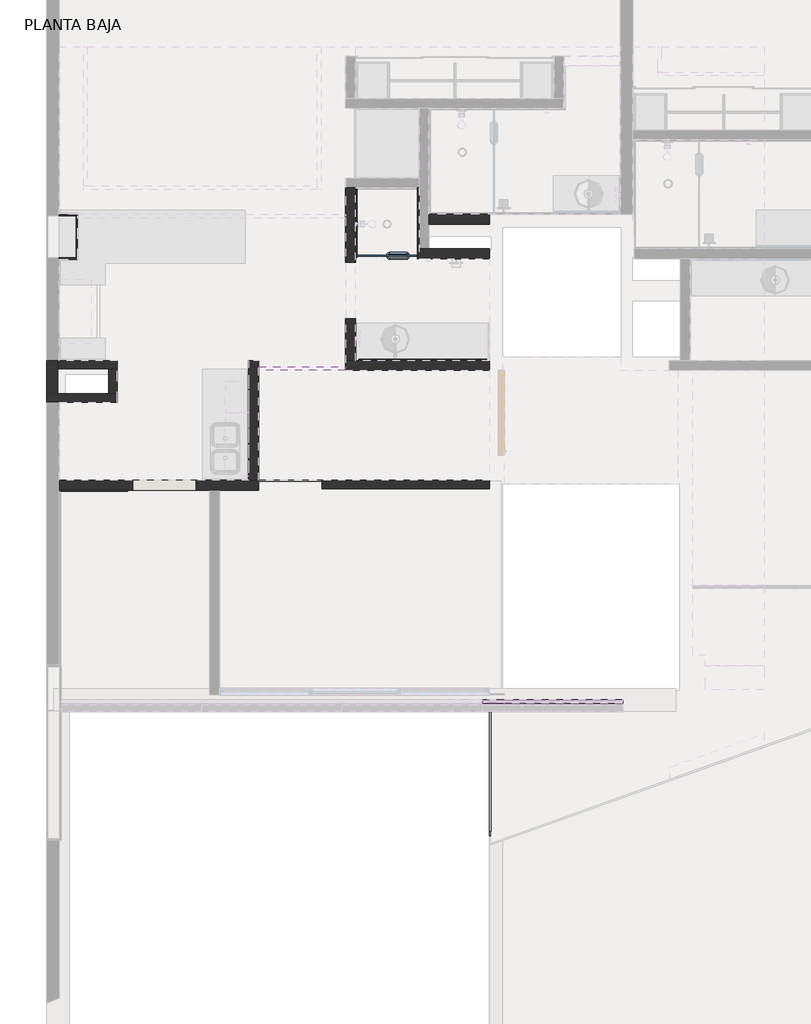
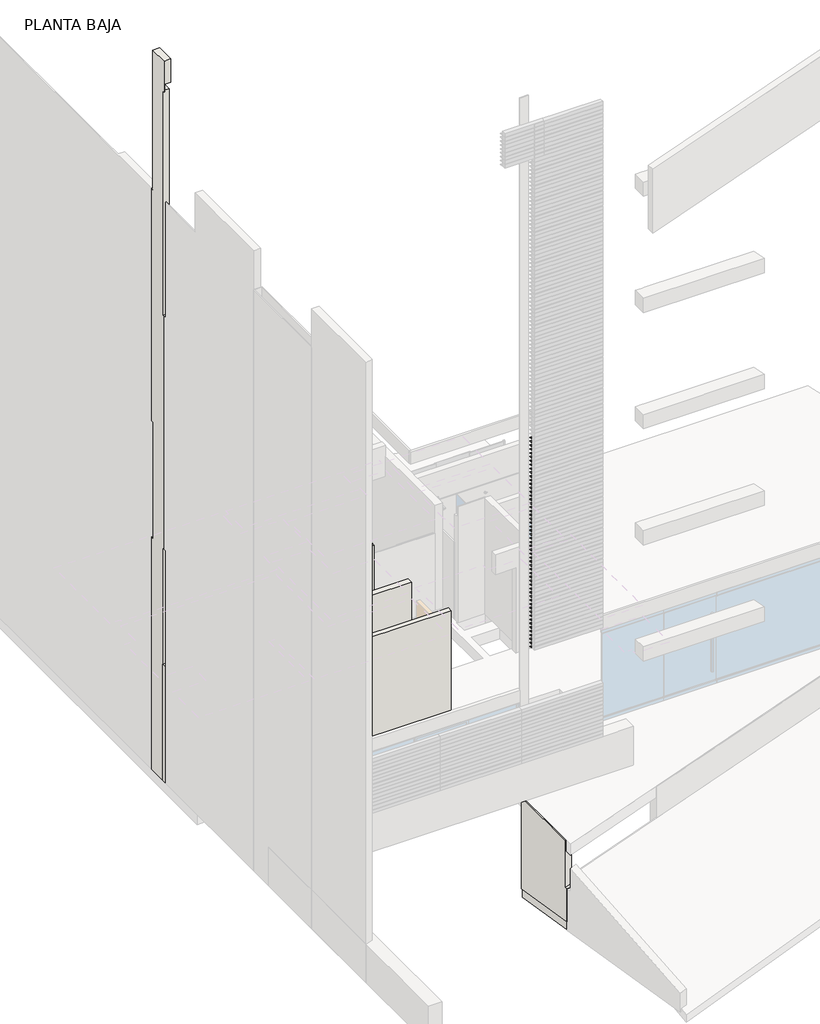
# One storey, part 2 of 8: 69 members, 20 walls, 2 windows.
"""IFC4 building model written with IfcOpenShell, lengths in millimetres."""

from ifc_helpers import new_model, si_unit, frame, origin, origin_with_axes, place, context, project, spatial, polyline, outline, extrude, faceted_brep, transform, mapped, element, save
from components import montante_rectangular_montante_rectangular_1_5x5_73253757, montante_rectangular_montante_rectangular_1_5x5_bb02bb6d, window_c6335699, window_3a4cdc61

model = new_model("IFC4")

# Units and contexts
model_context = context("Model", 3, world=origin())
ifc_project = project(units=[si_unit("LENGTHUNIT", "METRE", prefix="MILLI")], contexts=[model_context])

# Site, building, storey
site = spatial("IfcSite", under=ifc_project)
building = spatial("IfcBuilding", under=site)
storey = spatial("IfcBuildingStorey", under=building, Name="PLANTA BAJA", Elevation=0.0)

# Members
placement = place(None, origin())
montante_rectangular_montante_rectangular_1_5x5_shape = montante_rectangular_montante_rectangular_1_5x5_73253757(model_context)
element("IfcMember", 1, ObjectType="Montante rectangular : Montante rectangular - 1.5x5", at=placement, inside=storey, context=model_context, shape_type="MappedRepresentation", body=[
    mapped(montante_rectangular_montante_rectangular_1_5x5_shape, transform((40444.5059119, 25044.0111729, 3812.0033113), x_axis=(0.0, 0.0, 1.0), y_axis=(0.0, 1.0, 0.0), z_axis=(-1.0, 0.0, 0.0))),
])
element("IfcMember", 2, ObjectType="Montante rectangular : Montante rectangular - 1.5x5", at=placement, inside=storey, context=model_context, shape_type="MappedRepresentation", body=[
    mapped(montante_rectangular_montante_rectangular_1_5x5_shape, transform((40444.5059119, 25044.0111729, 3911.9701987), x_axis=(0.0, 0.0, 1.0), y_axis=(0.0, 1.0, 0.0), z_axis=(-1.0, 0.0, 0.0))),
])
element("IfcMember", 3, ObjectType="Montante rectangular : Montante rectangular - 1.5x5", at=placement, inside=storey, context=model_context, shape_type="MappedRepresentation", body=[
    mapped(montante_rectangular_montante_rectangular_1_5x5_shape, transform((40444.5059119, 25044.0111729, 4011.9370861), x_axis=(0.0, 0.0, 1.0), y_axis=(0.0, 1.0, 0.0), z_axis=(-1.0, 0.0, 0.0))),
])
element("IfcMember", 4, ObjectType="Montante rectangular : Montante rectangular - 1.5x5", at=placement, inside=storey, context=model_context, shape_type="MappedRepresentation", body=[
    mapped(montante_rectangular_montante_rectangular_1_5x5_shape, transform((40444.5059119, 25044.0111729, 4111.9039735), x_axis=(0.0, 0.0, 1.0), y_axis=(0.0, 1.0, 0.0), z_axis=(-1.0, 0.0, 0.0))),
])
element("IfcMember", 5, ObjectType="Montante rectangular : Montante rectangular - 1.5x5", at=placement, inside=storey, context=model_context, shape_type="MappedRepresentation", body=[
    mapped(montante_rectangular_montante_rectangular_1_5x5_shape, transform((40444.5059119, 25044.0111729, 4211.8708609), x_axis=(0.0, 0.0, 1.0), y_axis=(0.0, 1.0, 0.0), z_axis=(-1.0, 0.0, 0.0))),
])
element("IfcMember", 6, ObjectType="Montante rectangular : Montante rectangular - 1.5x5", at=placement, inside=storey, context=model_context, shape_type="MappedRepresentation", body=[
    mapped(montante_rectangular_montante_rectangular_1_5x5_shape, transform((40444.5059119, 25044.0111729, 4311.8377483), x_axis=(0.0, 0.0, 1.0), y_axis=(0.0, 1.0, 0.0), z_axis=(-1.0, 0.0, 0.0))),
])
element("IfcMember", 7, ObjectType="Montante rectangular : Montante rectangular - 1.5x5", at=placement, inside=storey, context=model_context, shape_type="MappedRepresentation", body=[
    mapped(montante_rectangular_montante_rectangular_1_5x5_shape, transform((40444.5059119, 25044.0111729, 4411.8046358), x_axis=(0.0, 0.0, 1.0), y_axis=(0.0, 1.0, 0.0), z_axis=(-1.0, 0.0, 0.0))),
])
element("IfcMember", 8, ObjectType="Montante rectangular : Montante rectangular - 1.5x5", at=placement, inside=storey, context=model_context, shape_type="MappedRepresentation", body=[
    mapped(montante_rectangular_montante_rectangular_1_5x5_shape, transform((40444.5059119, 25044.0111729, 4511.7715232), x_axis=(0.0, 0.0, 1.0), y_axis=(0.0, 1.0, 0.0), z_axis=(-1.0, 0.0, 0.0))),
])
element("IfcMember", 9, ObjectType="Montante rectangular : Montante rectangular - 1.5x5", at=placement, inside=storey, context=model_context, shape_type="MappedRepresentation", body=[
    mapped(montante_rectangular_montante_rectangular_1_5x5_shape, transform((40444.5059119, 25044.0111729, 4611.7384106), x_axis=(0.0, 0.0, 1.0), y_axis=(0.0, 1.0, 0.0), z_axis=(-1.0, 0.0, 0.0))),
])
element("IfcMember", 10, ObjectType="Montante rectangular : Montante rectangular - 1.5x5", at=placement, inside=storey, context=model_context, shape_type="MappedRepresentation", body=[
    mapped(montante_rectangular_montante_rectangular_1_5x5_shape, transform((40444.5059119, 25044.0111729, 4711.705298), x_axis=(0.0, 0.0, 1.0), y_axis=(0.0, 1.0, 0.0), z_axis=(-1.0, 0.0, 0.0))),
])
element("IfcMember", 11, ObjectType="Montante rectangular : Montante rectangular - 1.5x5", at=placement, inside=storey, context=model_context, shape_type="MappedRepresentation", body=[
    mapped(montante_rectangular_montante_rectangular_1_5x5_shape, transform((40444.5059119, 25044.0111729, 4811.6721854), x_axis=(0.0, 0.0, 1.0), y_axis=(0.0, 1.0, 0.0), z_axis=(-1.0, 0.0, 0.0))),
])
element("IfcMember", 12, ObjectType="Montante rectangular : Montante rectangular - 1.5x5", at=placement, inside=storey, context=model_context, shape_type="MappedRepresentation", body=[
    mapped(montante_rectangular_montante_rectangular_1_5x5_shape, transform((40444.5059119, 25044.0111729, 4911.6390728), x_axis=(0.0, 0.0, 1.0), y_axis=(0.0, 1.0, 0.0), z_axis=(-1.0, 0.0, 0.0))),
])
element("IfcMember", 13, ObjectType="Montante rectangular : Montante rectangular - 1.5x5", at=placement, inside=storey, context=model_context, shape_type="MappedRepresentation", body=[
    mapped(montante_rectangular_montante_rectangular_1_5x5_shape, transform((40444.5059119, 25044.0111729, 5011.6059603), x_axis=(0.0, 0.0, 1.0), y_axis=(0.0, 1.0, 0.0), z_axis=(-1.0, 0.0, 0.0))),
])
element("IfcMember", 14, ObjectType="Montante rectangular : Montante rectangular - 1.5x5", at=placement, inside=storey, context=model_context, shape_type="MappedRepresentation", body=[
    mapped(montante_rectangular_montante_rectangular_1_5x5_shape, transform((40444.5059119, 25044.0111729, 5111.5728477), x_axis=(0.0, 0.0, 1.0), y_axis=(0.0, 1.0, 0.0), z_axis=(-1.0, 0.0, 0.0))),
])
element("IfcMember", 15, ObjectType="Montante rectangular : Montante rectangular - 1.5x5", at=placement, inside=storey, context=model_context, shape_type="MappedRepresentation", body=[
    mapped(montante_rectangular_montante_rectangular_1_5x5_shape, transform((40444.5059119, 25044.0111729, 5211.5397351), x_axis=(0.0, 0.0, 1.0), y_axis=(0.0, 1.0, 0.0), z_axis=(-1.0, 0.0, 0.0))),
])
element("IfcMember", 16, ObjectType="Montante rectangular : Montante rectangular - 1.5x5", at=placement, inside=storey, context=model_context, shape_type="MappedRepresentation", body=[
    mapped(montante_rectangular_montante_rectangular_1_5x5_shape, transform((40444.5059119, 25044.0111729, 5311.5066225), x_axis=(0.0, 0.0, 1.0), y_axis=(0.0, 1.0, 0.0), z_axis=(-1.0, 0.0, 0.0))),
])
element("IfcMember", 17, ObjectType="Montante rectangular : Montante rectangular - 1.5x5", at=placement, inside=storey, context=model_context, shape_type="MappedRepresentation", body=[
    mapped(montante_rectangular_montante_rectangular_1_5x5_shape, transform((40444.5059119, 25044.0111729, 5411.4735099), x_axis=(0.0, 0.0, 1.0), y_axis=(0.0, 1.0, 0.0), z_axis=(-1.0, 0.0, 0.0))),
])
element("IfcMember", 18, ObjectType="Montante rectangular : Montante rectangular - 1.5x5", at=placement, inside=storey, context=model_context, shape_type="MappedRepresentation", body=[
    mapped(montante_rectangular_montante_rectangular_1_5x5_shape, transform((40444.5059119, 25044.0111729, 5511.4403974), x_axis=(0.0, 0.0, 1.0), y_axis=(0.0, 1.0, 0.0), z_axis=(-1.0, 0.0, 0.0))),
])
element("IfcMember", 19, ObjectType="Montante rectangular : Montante rectangular - 1.5x5", at=placement, inside=storey, context=model_context, shape_type="MappedRepresentation", body=[
    mapped(montante_rectangular_montante_rectangular_1_5x5_shape, transform((40444.5059119, 25044.0111729, 5611.4072848), x_axis=(0.0, 0.0, 1.0), y_axis=(0.0, 1.0, 0.0), z_axis=(-1.0, 0.0, 0.0))),
])
element("IfcMember", 20, ObjectType="Montante rectangular : Montante rectangular - 1.5x5", at=placement, inside=storey, context=model_context, shape_type="MappedRepresentation", body=[
    mapped(montante_rectangular_montante_rectangular_1_5x5_shape, transform((40444.5059119, 25044.0111729, 5711.3741722), x_axis=(0.0, 0.0, 1.0), y_axis=(0.0, 1.0, 0.0), z_axis=(-1.0, 0.0, 0.0))),
])
element("IfcMember", 21, ObjectType="Montante rectangular : Montante rectangular - 1.5x5", at=placement, inside=storey, context=model_context, shape_type="MappedRepresentation", body=[
    mapped(montante_rectangular_montante_rectangular_1_5x5_shape, transform((40444.5059119, 25044.0111729, 5811.3410596), x_axis=(0.0, 0.0, 1.0), y_axis=(0.0, 1.0, 0.0), z_axis=(-1.0, 0.0, 0.0))),
])
element("IfcMember", 22, ObjectType="Montante rectangular : Montante rectangular - 1.5x5", at=placement, inside=storey, context=model_context, shape_type="MappedRepresentation", body=[
    mapped(montante_rectangular_montante_rectangular_1_5x5_shape, transform((40444.5059119, 25044.0111729, 5911.307947), x_axis=(0.0, 0.0, 1.0), y_axis=(0.0, 1.0, 0.0), z_axis=(-1.0, 0.0, 0.0))),
])
element("IfcMember", 23, ObjectType="Montante rectangular : Montante rectangular - 1.5x5", at=placement, inside=storey, context=model_context, shape_type="MappedRepresentation", body=[
    mapped(montante_rectangular_montante_rectangular_1_5x5_shape, transform((40444.5059119, 25044.0111729, 6011.2748344), x_axis=(0.0, 0.0, 1.0), y_axis=(0.0, 1.0, 0.0), z_axis=(-1.0, 0.0, 0.0))),
])
element("IfcMember", 24, ObjectType="Montante rectangular : Montante rectangular - 1.5x5", at=placement, inside=storey, context=model_context, shape_type="MappedRepresentation", body=[
    mapped(montante_rectangular_montante_rectangular_1_5x5_shape, transform((40444.5059119, 25044.0111729, 6111.2417219), x_axis=(0.0, 0.0, 1.0), y_axis=(0.0, 1.0, 0.0), z_axis=(-1.0, 0.0, 0.0))),
])
element("IfcMember", 25, ObjectType="Montante rectangular : Montante rectangular - 1.5x5", at=placement, inside=storey, context=model_context, shape_type="MappedRepresentation", body=[
    mapped(montante_rectangular_montante_rectangular_1_5x5_shape, transform((40444.5059119, 25044.0111729, 6211.2086093), x_axis=(0.0, 0.0, 1.0), y_axis=(0.0, 1.0, 0.0), z_axis=(-1.0, 0.0, 0.0))),
])
element("IfcMember", 26, ObjectType="Montante rectangular : Montante rectangular - 1.5x5", at=placement, inside=storey, context=model_context, shape_type="MappedRepresentation", body=[
    mapped(montante_rectangular_montante_rectangular_1_5x5_shape, transform((40444.5059119, 25044.0111729, 6311.1754967), x_axis=(0.0, 0.0, 1.0), y_axis=(0.0, 1.0, 0.0), z_axis=(-1.0, 0.0, 0.0))),
])
element("IfcMember", 27, ObjectType="Montante rectangular : Montante rectangular - 1.5x5", at=placement, inside=storey, context=model_context, shape_type="MappedRepresentation", body=[
    mapped(montante_rectangular_montante_rectangular_1_5x5_shape, transform((40444.5059119, 25044.0111729, 6411.1423841), x_axis=(0.0, 0.0, 1.0), y_axis=(0.0, 1.0, 0.0), z_axis=(-1.0, 0.0, 0.0))),
])
element("IfcMember", 28, ObjectType="Montante rectangular : Montante rectangular - 1.5x5", at=placement, inside=storey, context=model_context, shape_type="MappedRepresentation", body=[
    mapped(montante_rectangular_montante_rectangular_1_5x5_shape, transform((40444.5059119, 25044.0111729, 6511.1092715), x_axis=(0.0, 0.0, 1.0), y_axis=(0.0, 1.0, 0.0), z_axis=(-1.0, 0.0, 0.0))),
])
element("IfcMember", 29, ObjectType="Montante rectangular : Montante rectangular - 1.5x5", at=placement, inside=storey, context=model_context, shape_type="MappedRepresentation", body=[
    mapped(montante_rectangular_montante_rectangular_1_5x5_shape, transform((40444.5059119, 25044.0111729, 6611.0761589), x_axis=(0.0, 0.0, 1.0), y_axis=(0.0, 1.0, 0.0), z_axis=(-1.0, 0.0, 0.0))),
])
element("IfcMember", 30, ObjectType="Montante rectangular : Montante rectangular - 1.5x5", at=placement, inside=storey, context=model_context, shape_type="MappedRepresentation", body=[
    mapped(montante_rectangular_montante_rectangular_1_5x5_shape, transform((40444.5059119, 25044.0111729, 6711.0430464), x_axis=(0.0, 0.0, 1.0), y_axis=(0.0, 1.0, 0.0), z_axis=(-1.0, 0.0, 0.0))),
])
element("IfcMember", 31, ObjectType="Montante rectangular : Montante rectangular - 1.5x5", at=placement, inside=storey, context=model_context, shape_type="MappedRepresentation", body=[
    mapped(montante_rectangular_montante_rectangular_1_5x5_shape, transform((40444.5059119, 25044.0111729, 6811.0099338), x_axis=(0.0, 0.0, 1.0), y_axis=(0.0, 1.0, 0.0), z_axis=(-1.0, 0.0, 0.0))),
])
element("IfcMember", 32, ObjectType="Montante rectangular : Montante rectangular - 1.5x5", at=placement, inside=storey, context=model_context, shape_type="MappedRepresentation", body=[
    mapped(montante_rectangular_montante_rectangular_1_5x5_shape, transform((40444.5059119, 25044.0111729, 6910.9768212), x_axis=(0.0, 0.0, 1.0), y_axis=(0.0, 1.0, 0.0), z_axis=(-1.0, 0.0, 0.0))),
])
element("IfcMember", 33, ObjectType="Montante rectangular : Montante rectangular - 1.5x5", at=placement, inside=storey, context=model_context, shape_type="MappedRepresentation", body=[
    mapped(montante_rectangular_montante_rectangular_1_5x5_shape, transform((40444.5059119, 25044.0111729, 7010.9437086), x_axis=(0.0, 0.0, 1.0), y_axis=(0.0, 1.0, 0.0), z_axis=(-1.0, 0.0, 0.0))),
])
element("IfcMember", 34, ObjectType="Montante rectangular : Montante rectangular - 1.5x5", at=placement, inside=storey, context=model_context, shape_type="MappedRepresentation", body=[
    mapped(montante_rectangular_montante_rectangular_1_5x5_shape, transform((40444.5059119, 25044.0111729, 7110.910596), x_axis=(0.0, 0.0, 1.0), y_axis=(0.0, 1.0, 0.0), z_axis=(-1.0, 0.0, 0.0))),
])
element("IfcMember", 35, ObjectType="Montante rectangular : Montante rectangular - 1.5x5", at=placement, inside=storey, context=model_context, shape_type="MappedRepresentation", body=[
    mapped(montante_rectangular_montante_rectangular_1_5x5_shape, transform((40444.5059119, 25044.0111729, 7210.8774834), x_axis=(0.0, 0.0, 1.0), y_axis=(0.0, 1.0, 0.0), z_axis=(-1.0, 0.0, 0.0))),
])
element("IfcMember", 36, ObjectType="Montante rectangular : Montante rectangular - 1.5x5", at=placement, inside=storey, context=model_context, shape_type="MappedRepresentation", body=[
    mapped(montante_rectangular_montante_rectangular_1_5x5_shape, transform((40444.5059119, 25044.0111729, 7310.8443709), x_axis=(0.0, 0.0, 1.0), y_axis=(0.0, 1.0, 0.0), z_axis=(-1.0, 0.0, 0.0))),
])
element("IfcMember", 37, ObjectType="Montante rectangular : Montante rectangular - 1.5x5", at=placement, inside=storey, context=model_context, shape_type="MappedRepresentation", body=[
    mapped(montante_rectangular_montante_rectangular_1_5x5_shape, transform((40444.5059119, 25044.0111729, 7410.8112583), x_axis=(0.0, 0.0, 1.0), y_axis=(0.0, 1.0, 0.0), z_axis=(-1.0, 0.0, 0.0))),
])
element("IfcMember", 38, ObjectType="Montante rectangular : Montante rectangular - 1.5x5", at=placement, inside=storey, context=model_context, shape_type="MappedRepresentation", body=[
    mapped(montante_rectangular_montante_rectangular_1_5x5_shape, transform((40444.5059119, 25044.0111729, 7510.7781457), x_axis=(0.0, 0.0, 1.0), y_axis=(0.0, 1.0, 0.0), z_axis=(-1.0, 0.0, 0.0))),
])
element("IfcMember", 39, ObjectType="Montante rectangular : Montante rectangular - 1.5x5", at=placement, inside=storey, context=model_context, shape_type="MappedRepresentation", body=[
    mapped(montante_rectangular_montante_rectangular_1_5x5_shape, transform((40444.5059119, 25044.0111729, 7610.7450331), x_axis=(0.0, 0.0, 1.0), y_axis=(0.0, 1.0, 0.0), z_axis=(-1.0, 0.0, 0.0))),
])
element("IfcMember", 40, ObjectType="Montante rectangular : Montante rectangular - 1.5x5", at=placement, inside=storey, context=model_context, shape_type="MappedRepresentation", body=[
    mapped(montante_rectangular_montante_rectangular_1_5x5_shape, transform((40444.5059119, 25044.0111729, 7710.7119205), x_axis=(0.0, 0.0, 1.0), y_axis=(0.0, 1.0, 0.0), z_axis=(-1.0, 0.0, 0.0))),
])
element("IfcMember", 41, ObjectType="Montante rectangular : Montante rectangular - 1.5x5", at=placement, inside=storey, context=model_context, shape_type="MappedRepresentation", body=[
    mapped(montante_rectangular_montante_rectangular_1_5x5_shape, transform((40444.5059119, 25044.0111729, 7810.6788079), x_axis=(0.0, 0.0, 1.0), y_axis=(0.0, 1.0, 0.0), z_axis=(-1.0, 0.0, 0.0))),
])
element("IfcMember", 42, ObjectType="Montante rectangular : Montante rectangular - 1.5x5", at=placement, inside=storey, context=model_context, shape_type="MappedRepresentation", body=[
    mapped(montante_rectangular_montante_rectangular_1_5x5_shape, transform((40444.5059119, 25044.0111729, 7910.6456954), x_axis=(0.0, 0.0, 1.0), y_axis=(0.0, 1.0, 0.0), z_axis=(-1.0, 0.0, 0.0))),
])
element("IfcMember", 43, ObjectType="Montante rectangular : Montante rectangular - 1.5x5", at=placement, inside=storey, context=model_context, shape_type="MappedRepresentation", body=[
    mapped(montante_rectangular_montante_rectangular_1_5x5_shape, transform((40444.5059119, 25044.0111729, 8010.6125828), x_axis=(0.0, 0.0, 1.0), y_axis=(0.0, 1.0, 0.0), z_axis=(-1.0, 0.0, 0.0))),
])
element("IfcMember", 44, ObjectType="Montante rectangular : Montante rectangular - 1.5x5", at=placement, inside=storey, context=model_context, shape_type="MappedRepresentation", body=[
    mapped(montante_rectangular_montante_rectangular_1_5x5_shape, transform((40444.5059119, 25044.0111729, 8110.5794702), x_axis=(0.0, 0.0, 1.0), y_axis=(0.0, 1.0, 0.0), z_axis=(-1.0, 0.0, 0.0))),
])
element("IfcMember", 45, ObjectType="Montante rectangular : Montante rectangular - 1.5x5", at=placement, inside=storey, context=model_context, shape_type="MappedRepresentation", body=[
    mapped(montante_rectangular_montante_rectangular_1_5x5_shape, transform((40444.5059119, 25044.0111729, 8210.5463576), x_axis=(0.0, 0.0, 1.0), y_axis=(0.0, 1.0, 0.0), z_axis=(-1.0, 0.0, 0.0))),
])
element("IfcMember", 46, ObjectType="Montante rectangular : Montante rectangular - 1.5x5", at=placement, inside=storey, context=model_context, shape_type="MappedRepresentation", body=[
    mapped(montante_rectangular_montante_rectangular_1_5x5_shape, transform((40444.5059119, 25044.0111729, 8310.513245), x_axis=(0.0, 0.0, 1.0), y_axis=(0.0, 1.0, 0.0), z_axis=(-1.0, 0.0, 0.0))),
])
element("IfcMember", 47, ObjectType="Montante rectangular : Montante rectangular - 1.5x5", at=placement, inside=storey, context=model_context, shape_type="MappedRepresentation", body=[
    mapped(montante_rectangular_montante_rectangular_1_5x5_shape, transform((40444.5059119, 25044.0111729, 8410.4801325), x_axis=(0.0, 0.0, 1.0), y_axis=(0.0, 1.0, 0.0), z_axis=(-1.0, 0.0, 0.0))),
])
element("IfcMember", 48, ObjectType="Montante rectangular : Montante rectangular - 1.5x5", at=placement, inside=storey, context=model_context, shape_type="MappedRepresentation", body=[
    mapped(montante_rectangular_montante_rectangular_1_5x5_shape, transform((40444.5059119, 25044.0111729, 8510.4470199), x_axis=(0.0, 0.0, 1.0), y_axis=(0.0, 1.0, 0.0), z_axis=(-1.0, 0.0, 0.0))),
])
element("IfcMember", 49, ObjectType="Montante rectangular : Montante rectangular - 1.5x5", at=placement, inside=storey, context=model_context, shape_type="MappedRepresentation", body=[
    mapped(montante_rectangular_montante_rectangular_1_5x5_shape, transform((40444.5059119, 25044.0111729, 8610.4139073), x_axis=(0.0, 0.0, 1.0), y_axis=(0.0, 1.0, 0.0), z_axis=(-1.0, 0.0, 0.0))),
])
element("IfcMember", 50, ObjectType="Montante rectangular : Montante rectangular - 1.5x5", at=placement, inside=storey, context=model_context, shape_type="MappedRepresentation", body=[
    mapped(montante_rectangular_montante_rectangular_1_5x5_shape, transform((40444.5059119, 25044.0111729, 8710.3807947), x_axis=(0.0, 0.0, 1.0), y_axis=(0.0, 1.0, 0.0), z_axis=(-1.0, 0.0, 0.0))),
])
element("IfcMember", 51, ObjectType="Montante rectangular : Montante rectangular - 1.5x5", at=placement, inside=storey, context=model_context, shape_type="MappedRepresentation", body=[
    mapped(montante_rectangular_montante_rectangular_1_5x5_shape, transform((40444.5059119, 25044.0111729, 8810.3476821), x_axis=(0.0, 0.0, 1.0), y_axis=(0.0, 1.0, 0.0), z_axis=(-1.0, 0.0, 0.0))),
])
element("IfcMember", 52, ObjectType="Montante rectangular : Montante rectangular - 1.5x5", at=placement, inside=storey, context=model_context, shape_type="MappedRepresentation", body=[
    mapped(montante_rectangular_montante_rectangular_1_5x5_shape, transform((40444.5059119, 25044.0111729, 8910.3145695), x_axis=(0.0, 0.0, 1.0), y_axis=(0.0, 1.0, 0.0), z_axis=(-1.0, 0.0, 0.0))),
])
element("IfcMember", 53, ObjectType="Montante rectangular : Montante rectangular - 1.5x5", at=placement, inside=storey, context=model_context, shape_type="MappedRepresentation", body=[
    mapped(montante_rectangular_montante_rectangular_1_5x5_shape, transform((40444.5059119, 25044.0111729, 9010.281457), x_axis=(0.0, 0.0, 1.0), y_axis=(0.0, 1.0, 0.0), z_axis=(-1.0, 0.0, 0.0))),
])
element("IfcMember", 54, ObjectType="Montante rectangular : Montante rectangular - 1.5x5", at=placement, inside=storey, context=model_context, shape_type="MappedRepresentation", body=[
    mapped(montante_rectangular_montante_rectangular_1_5x5_shape, transform((40444.5059119, 25044.0111729, 9110.2483444), x_axis=(0.0, 0.0, 1.0), y_axis=(0.0, 1.0, 0.0), z_axis=(-1.0, 0.0, 0.0))),
])
element("IfcMember", 55, ObjectType="Montante rectangular : Montante rectangular - 1.5x5", at=placement, inside=storey, context=model_context, shape_type="MappedRepresentation", body=[
    mapped(montante_rectangular_montante_rectangular_1_5x5_shape, transform((40444.5059119, 25044.0111729, 9210.2152318), x_axis=(0.0, 0.0, 1.0), y_axis=(0.0, 1.0, 0.0), z_axis=(-1.0, 0.0, 0.0))),
])
montante_rectangular_montante_rectangular_1_5x5_2_shape = montante_rectangular_montante_rectangular_1_5x5_bb02bb6d(model_context)
element("IfcMember", 56, ObjectType="Montante rectangular : Montante rectangular - 1.5x5", at=placement, inside=storey, context=model_context, shape_type="MappedRepresentation", body=[
    mapped(montante_rectangular_montante_rectangular_1_5x5_2_shape, transform((40132.4485818, 25044.0111729, 1086.8333333), x_axis=(0.0, 0.0, 1.0), y_axis=(0.0, 1.0, 0.0), z_axis=(-1.0, 0.0, 0.0))),
])
element("IfcMember", 57, ObjectType="Montante rectangular : Montante rectangular - 1.5x5", at=placement, inside=storey, context=model_context, shape_type="MappedRepresentation", body=[
    mapped(montante_rectangular_montante_rectangular_1_5x5_2_shape, transform((40132.4485818, 25044.0111729, 1181.1666667), x_axis=(0.0, 0.0, 1.0), y_axis=(0.0, 1.0, 0.0), z_axis=(-1.0, 0.0, 0.0))),
])
element("IfcMember", 58, ObjectType="Montante rectangular : Montante rectangular - 1.5x5", at=placement, inside=storey, context=model_context, shape_type="MappedRepresentation", body=[
    mapped(montante_rectangular_montante_rectangular_1_5x5_2_shape, transform((40132.4485818, 25044.0111729, 1275.5), x_axis=(0.0, 0.0, 1.0), y_axis=(0.0, 1.0, 0.0), z_axis=(-1.0, 0.0, 0.0))),
])
element("IfcMember", 59, ObjectType="Montante rectangular : Montante rectangular - 1.5x5", at=placement, inside=storey, context=model_context, shape_type="MappedRepresentation", body=[
    mapped(montante_rectangular_montante_rectangular_1_5x5_2_shape, transform((40132.4485818, 25044.0111729, 1369.8333333), x_axis=(0.0, 0.0, 1.0), y_axis=(0.0, 1.0, 0.0), z_axis=(-1.0, 0.0, 0.0))),
])
element("IfcMember", 60, ObjectType="Montante rectangular : Montante rectangular - 1.5x5", at=placement, inside=storey, context=model_context, shape_type="MappedRepresentation", body=[
    mapped(montante_rectangular_montante_rectangular_1_5x5_2_shape, transform((40132.4485818, 25044.0111729, 1464.1666667), x_axis=(0.0, 0.0, 1.0), y_axis=(0.0, 1.0, 0.0), z_axis=(-1.0, 0.0, 0.0))),
])
element("IfcMember", 61, ObjectType="Montante rectangular : Montante rectangular - 1.5x5", at=placement, inside=storey, context=model_context, shape_type="MappedRepresentation", body=[
    mapped(montante_rectangular_montante_rectangular_1_5x5_2_shape, transform((40132.4485818, 25044.0111729, 1558.5), x_axis=(0.0, 0.0, 1.0), y_axis=(0.0, 1.0, 0.0), z_axis=(-1.0, 0.0, 0.0))),
])
element("IfcMember", 62, ObjectType="Montante rectangular : Montante rectangular - 1.5x5", at=placement, inside=storey, context=model_context, shape_type="MappedRepresentation", body=[
    mapped(montante_rectangular_montante_rectangular_1_5x5_2_shape, transform((40132.4485818, 25044.0111729, 1652.8333333), x_axis=(0.0, 0.0, 1.0), y_axis=(0.0, 1.0, 0.0), z_axis=(-1.0, 0.0, 0.0))),
])
element("IfcMember", 63, ObjectType="Montante rectangular : Montante rectangular - 1.5x5", at=placement, inside=storey, context=model_context, shape_type="MappedRepresentation", body=[
    mapped(montante_rectangular_montante_rectangular_1_5x5_2_shape, transform((40132.4485818, 25044.0111729, 1747.1666667), x_axis=(0.0, 0.0, 1.0), y_axis=(0.0, 1.0, 0.0), z_axis=(-1.0, 0.0, 0.0))),
])
element("IfcMember", 64, ObjectType="Montante rectangular : Montante rectangular - 1.5x5", at=placement, inside=storey, context=model_context, shape_type="MappedRepresentation", body=[
    mapped(montante_rectangular_montante_rectangular_1_5x5_2_shape, transform((40132.4485818, 25044.0111729, 1841.5), x_axis=(0.0, 0.0, 1.0), y_axis=(0.0, 1.0, 0.0), z_axis=(-1.0, 0.0, 0.0))),
])
element("IfcMember", 65, ObjectType="Montante rectangular : Montante rectangular - 1.5x5", at=placement, inside=storey, context=model_context, shape_type="MappedRepresentation", body=[
    mapped(montante_rectangular_montante_rectangular_1_5x5_2_shape, transform((40132.4485818, 25044.0111729, 1935.8333333), x_axis=(0.0, 0.0, 1.0), y_axis=(0.0, 1.0, 0.0), z_axis=(-1.0, 0.0, 0.0))),
])
element("IfcMember", 66, ObjectType="Montante rectangular : Montante rectangular - 1.5x5", at=placement, inside=storey, context=model_context, shape_type="MappedRepresentation", body=[
    mapped(montante_rectangular_montante_rectangular_1_5x5_2_shape, transform((40132.4485818, 25044.0111729, 2030.1666667), x_axis=(0.0, 0.0, 1.0), y_axis=(0.0, 1.0, 0.0), z_axis=(-1.0, 0.0, 0.0))),
])
element("IfcMember", 67, ObjectType="Montante rectangular : Montante rectangular - 1.5x5", at=placement, inside=storey, context=model_context, shape_type="MappedRepresentation", body=[
    mapped(montante_rectangular_montante_rectangular_1_5x5_2_shape, transform((40132.4485818, 25044.0111729, 2124.5), x_axis=(0.0, 0.0, 1.0), y_axis=(0.0, 1.0, 0.0), z_axis=(-1.0, 0.0, 0.0))),
])
element("IfcMember", 68, ObjectType="Montante rectangular : Montante rectangular - 1.5x5", at=placement, inside=storey, context=model_context, shape_type="MappedRepresentation", body=[
    mapped(montante_rectangular_montante_rectangular_1_5x5_2_shape, transform((40132.4485818, 25044.0111729, 2218.8333333), x_axis=(0.0, 0.0, 1.0), y_axis=(0.0, 1.0, 0.0), z_axis=(-1.0, 0.0, 0.0))),
])
element("IfcMember", 69, ObjectType="Montante rectangular : Montante rectangular - 1.5x5", at=placement, inside=storey, context=model_context, shape_type="MappedRepresentation", body=[
    mapped(montante_rectangular_montante_rectangular_1_5x5_2_shape, transform((40132.4485818, 25044.0111729, 2313.1666667), x_axis=(0.0, 0.0, 1.0), y_axis=(0.0, 1.0, 0.0), z_axis=(-1.0, 0.0, 0.0))),
])

# Walls
element("IfcWall", 70, ObjectType="Muro block 12cms_int_ductos", at=placement, inside=storey, context=model_context, shape_type="Brep", body=[
    faceted_brep([(33963.8589874, 29274.010184, 0.0), (34143.8589874, 29274.010184, 0.0), (34963.8589874, 29274.010184, 0.0), (34963.8589874, 29274.010184, 3000.0), (33963.8589874, 29274.010184, 3000.0), (33963.8589874, 29394.010184, 0.0), (33963.8589874, 29394.010184, 3000.0), (34843.8589874, 29394.010184, 3000.0), (34963.8589874, 29394.010184, 3000.0), (34963.8589874, 29394.010184, 0.0), (34843.8589874, 29394.010184, 0.0), (34123.8589874, 29394.010184, 0.0)], [[[0, 1, 2, 3, 4]], [[5, 6, 7, 8, 9, 10, 11]], [[2, 1, 0, 5, 11, 10, 9]], [[4, 3, 8, 7, 6]], [[0, 4, 6, 5]], [[3, 2, 9, 8]]]),
])
element("IfcWall", 71, ObjectType="Muro block 16cms_ext ductos", at=placement, inside=storey, context=model_context, shape_type="Brep", body=[
    faceted_brep([(33963.8589874, 29864.010184, 0.0), (33963.8589874, 29394.010184, 0.0), (33963.8589874, 29394.010184, 3000.0), (33963.8589874, 29394.010184, 6000.0), (33963.8589874, 29334.010184, 6000.0), (33963.8589874, 29334.010184, 12000.0), (33963.8589874, 29394.010184, 12000.0), (33963.8589874, 29394.010184, 15000.0), (33963.8589874, 29394.010184, 17800.0), (33963.8589874, 29334.010184, 17800.0), (33963.8589874, 29334.010184, 18600.0), (33963.8589874, 29804.010184, 18600.0), (33963.8589874, 29804.010184, 15000.0), (33963.8589874, 29864.010184, 15000.0), (33963.8589874, 29864.010184, 9000.0), (33963.8589874, 29804.010184, 9000.0), (33963.8589874, 29804.010184, 6000.0), (33963.8589874, 29864.010184, 6000.0), (34123.8589874, 29804.010184, 18600.0), (34123.8589874, 29334.010184, 18600.0), (34123.8589874, 29334.010184, 18000.0), (34123.8589874, 29804.010184, 18000.0), (34123.8589874, 29394.010184, 0.0), (34123.8589874, 29744.010184, 0.0), (34123.8589874, 29864.010184, 0.0), (34123.8589874, 29864.010184, 3000.0), (34123.8589874, 29864.010184, 6000.0), (34123.8589874, 29804.010184, 6000.0), (34123.8589874, 29804.010184, 9000.0), (34123.8589874, 29864.010184, 9000.0), (34123.8589874, 29864.010184, 12000.0), (34123.8589874, 29864.010184, 15000.0), (34123.8589874, 29804.010184, 15000.0), (34123.8589874, 29804.010184, 17800.0), (34123.8589874, 29744.010184, 17800.0), (34123.8589874, 29394.010184, 17800.0), (34123.8589874, 29394.010184, 12000.0), (34123.8589874, 29334.010184, 12000.0), (34123.8589874, 29334.010184, 9000.0), (34123.8589874, 29334.010184, 6000.0), (34123.8589874, 29394.010184, 6000.0), (33983.8589874, 29804.010184, 17800.0), (33983.8589874, 29394.010184, 17800.0), (33983.8589874, 29334.010184, 18000.0), (33983.8589874, 29804.010184, 18000.0), (33983.8589874, 29334.010184, 17800.0), (33983.8589874, 29864.010184, 6000.0), (33983.8589874, 29804.010184, 9000.0), (33983.8589874, 29864.010184, 9000.0)], [[[0, 1, 2, 3, 4, 5, 6, 7, 8, 9, 10, 11, 12, 13, 14, 15, 16, 17]], [[18, 19, 20, 21]], [[22, 23, 24, 25, 26, 27, 28, 29, 30, 31, 32, 33, 34, 35, 36, 37, 38, 39, 40]], [[1, 0, 24, 23, 22]], [[11, 10, 19, 18]], [[41, 42, 35, 34, 33]], [[43, 44, 21, 20]], [[42, 41, 44, 43, 45]], [[39, 4, 3, 40]], [[4, 39, 38, 37, 5]], [[6, 5, 37, 36]], [[1, 22, 40, 3, 2]], [[19, 10, 9, 45, 43, 20]], [[9, 8, 42, 45]], [[6, 36, 35, 42, 8, 7]], [[16, 27, 26, 46, 17]], [[27, 16, 15, 47, 28]], [[29, 28, 47, 15, 14, 48]], [[12, 32, 31, 13]], [[11, 18, 21, 44, 41, 33, 32, 12]], [[24, 0, 17, 46, 26, 25]], [[13, 31, 30, 29, 48, 14]]]),
])
element("IfcWall", 72, ObjectType="Muro block 12cms_int_ductos", at=placement, inside=storey, context=model_context, shape_type="Brep", body=[
    faceted_brep([(34123.8589874, 29744.010184, 0.0), (34843.8589874, 29744.010184, 0.0), (34963.8589874, 29744.010184, 0.0), (34963.8589874, 29744.010184, 3000.0), (34843.8589874, 29744.010184, 3000.0), (34123.8589874, 29744.010184, 3000.0), (34123.8589874, 29864.010184, 0.0), (34123.8589874, 29864.010184, 3000.0), (34963.8589874, 29864.010184, 3000.0), (34963.8589874, 29864.010184, 0.0), (34143.8589874, 29864.010184, 0.0)], [[[0, 1, 2, 3, 4, 5]], [[6, 7, 8, 9, 10]], [[2, 1, 0, 6, 10, 9]], [[5, 4, 3, 8, 7]], [[0, 5, 7, 6]], [[3, 2, 9, 8]]]),
])
element("IfcWall", 73, ObjectType="TABLAROCA - 2 CAPAS 1/2\"", at=placement, inside=storey, context=model_context, shape_type="Brep", body=[
    faceted_brep([(40234.5059119, 28169.7432167, 0.0), (36965.8300226, 28169.7432167, 0.0), (36965.8300226, 28169.7432167, 180.0), (37865.8300226, 28169.7432167, 180.0), (37865.8300226, 28169.7432167, 2380.0), (36965.8300226, 28169.7432167, 2380.0), (36965.8300226, 28169.7432167, 2720.0), (36895.8300226, 28169.7432167, 2720.0), (36895.8300226, 28169.7432167, 3000.0), (40234.5059119, 28169.7432167, 3000.0), (40234.5059119, 28052.3432167, 3000.0), (36895.8300226, 28052.3432167, 3000.0), (36895.8300226, 28052.3432167, 2720.0), (36965.8300226, 28052.3432167, 2720.0), (36965.8300226, 28052.3432167, 2380.0), (37865.8300226, 28052.3432167, 2380.0), (37865.8300226, 28052.3432167, 180.0), (40234.5059119, 28052.3432167, 180.0), (40234.5059119, 28157.0432167, 0.0), (36965.8300226, 28157.0432167, 0.0), (40234.5059119, 28157.0432167, 180.0), (37865.8300226, 28157.0432167, 180.0), (36965.8300226, 28157.0432167, 180.0)], [[[0, 1, 2, 3, 4, 5, 6, 7, 8, 9]], [[10, 11, 12, 13, 14, 15, 16, 17]], [[1, 0, 18, 19]], [[9, 8, 11, 10]], [[0, 9, 10, 17, 20, 18]], [[4, 15, 14, 5]], [[15, 4, 3, 21, 16]], [[3, 2, 22, 21]], [[11, 8, 7, 12]], [[12, 7, 6, 13]], [[2, 1, 19, 22]], [[13, 6, 5, 14]], [[21, 20, 17, 16]], [[20, 21, 22, 19, 18]]]),
])
element("IfcWall", 74, ObjectType="Muro block 12cms_int_ductos", at=placement, inside=storey, context=model_context, shape_type="SweptSolid", body=[
    extrude(outline(polyline([(34963.8589874, 29744.010184), (34963.8589874, 29394.010184), (34843.8589874, 29394.010184), (34843.8589874, 29744.010184), (34963.8589874, 29744.010184)])), origin_with_axes(), (0.0, 0.0, 1.0), 3000.0),
])
element("IfcWall", 75, ObjectType="Cerámica baño", at=placement, inside=storey, context=model_context, shape_type="Brep", body=[
    faceted_brep([(35114.5300226, 28032.0432167, 0.0), (34143.8589874, 28032.0432167, 0.0), (34143.8589874, 28032.0432167, 2000.0), (35114.5300226, 28032.0432167, 2000.0), (35114.5300226, 28012.0432167, 0.0), (35114.5300226, 28012.0432167, 2000.0), (34163.8589874, 28012.0432167, 2000.0), (34143.8589874, 28012.0432167, 2000.0), (34143.8589874, 28012.0432167, 0.0), (34163.8589874, 28012.0432167, 0.0)], [[[0, 1, 2, 3]], [[4, 5, 6, 7, 8, 9]], [[1, 0, 4, 9, 8]], [[3, 2, 7, 6, 5]], [[0, 3, 5, 4]], [[2, 1, 8, 7]]]),
])
element("IfcWall", 76, ObjectType="Plafond tablaroca", at=placement, inside=storey, context=model_context, shape_type="SweptSolid", body=[
    extrude(outline(polyline([(34403.8589874, 31928.9733508), (38194.5300226, 31928.9733508), (38194.5300226, 31876.2733508), (34403.8589874, 31876.2733508), (34403.8589874, 31928.9733508)])), frame((0.0, 0.0, 2352.7), z_axis=(0.0, 0.0, 1.0), x_axis=(1.0, 0.0, 0.0)), (0.0, 0.0, 1.0), 97.3),
])
element("IfcWall", 77, ObjectType="Plafond tablaroca", at=placement, inside=storey, context=model_context, shape_type="SweptSolid", body=[
    extrude(outline(polyline([(36965.8300226, 29776.710184), (38194.5300226, 29776.710184), (38194.5300226, 29724.010184), (36965.8300226, 29724.010184), (36965.8300226, 29776.710184)])), frame((0.0, 0.0, 2352.7), z_axis=(0.0, 0.0, 1.0), x_axis=(1.0, 0.0, 0.0)), (0.0, 0.0, 1.0), 367.3),
])
element("IfcWall", 78, ObjectType="Cerámica baño", at=placement, inside=storey, context=model_context, shape_type="Brep", body=[
    faceted_brep([(39234.5300226, 31304.010477, 0.0), (39234.5300226, 32304.010477, 0.0), (39234.5300226, 32304.010477, 2000.0), (39234.5300226, 31304.010477, 2000.0), (39214.5300226, 31304.010477, 0.0), (39214.5300226, 31304.010477, 2000.0), (39214.5300226, 31324.010477, 2000.0), (39214.5300226, 31364.010477, 2000.0), (39214.5300226, 32284.010477, 2000.0), (39214.5300226, 32304.010477, 2000.0), (39214.5300226, 32304.010477, 0.0), (39214.5300226, 32284.010477, 0.0), (39214.5300226, 31364.010477, 0.0), (39214.5300226, 31324.010477, 0.0)], [[[0, 1, 2, 3]], [[4, 5, 6, 7, 8, 9, 10, 11, 12, 13]], [[1, 0, 4, 13, 12, 11, 10]], [[3, 2, 9, 8, 7, 6, 5]], [[0, 3, 5, 4]], [[2, 1, 10, 9]]]),
])
element("IfcWall", 79, ObjectType="Cerámica baño", at=placement, inside=storey, context=model_context, shape_type="Brep", body=[
    faceted_brep([(38334.5300226, 32284.010477, 0.0), (38334.5300226, 31324.010477, 0.0), (38334.5300226, 31324.010477, 2000.0), (38334.5300226, 32284.010477, 2000.0), (38354.5300226, 32284.010477, 0.0), (38354.5300226, 32284.010477, 2000.0), (38354.5300226, 31364.010477, 2000.0), (38354.5300226, 31324.010477, 2000.0), (38354.5300226, 31324.010477, 0.0), (38354.5300226, 31364.010477, 0.0)], [[[0, 1, 2, 3]], [[4, 5, 6, 7, 8, 9]], [[1, 0, 4, 9, 8]], [[3, 2, 7, 6, 5]], [[0, 3, 5, 4]], [[2, 1, 8, 7]]]),
])
element("IfcWall", 80, ObjectType="Muro block 14cms_int", at=placement, inside=storey, context=model_context, shape_type="Brep", body=[
    faceted_brep([(36965.8300226, 28172.0432167, 0.0), (36965.8300226, 29864.010184, 0.0), (36965.8300226, 29864.010184, 2720.0), (36965.8300226, 29776.710184, 2720.0), (36965.8300226, 29724.010184, 2720.0), (36965.8300226, 28172.0432167, 2720.0), (36825.8300226, 28172.0432167, 0.0), (36825.8300226, 28172.0432167, 2720.0), (36825.8300226, 29864.010184, 2720.0), (36825.8300226, 29864.010184, 0.0), (36895.8300226, 28172.0432167, 2720.0)], [[[0, 1, 2, 3, 4, 5]], [[6, 7, 8, 9]], [[1, 0, 6, 9]], [[2, 1, 9, 8]], [[5, 4, 3, 2, 8, 7, 10]], [[0, 5, 10, 7, 6]]]),
])
element("IfcWall", 81, ObjectType="Muro block 14cms_int", at=placement, inside=storey, context=model_context, shape_type="Brep", body=[
    faceted_brep([(40234.5059119, 29864.010184, 0.0), (38334.5300226, 29864.010184, 0.0), (38194.5300226, 29864.010184, 0.0), (38194.5300226, 29864.010184, 2720.0), (38334.5300226, 29864.010184, 2720.0), (40234.5059119, 29864.010184, 2720.0), (38194.5300226, 29724.010184, 0.0), (40234.5059119, 29724.010184, 0.0), (40234.5059119, 29724.010184, 2720.0), (38194.5300226, 29724.010184, 2720.0), (38194.5300226, 29776.710184, 2720.0)], [[[0, 1, 2, 3, 4, 5]], [[6, 7, 8, 9]], [[2, 1, 0, 7, 6]], [[5, 4, 3, 10, 9, 8]], [[7, 0, 5, 8]], [[2, 6, 9, 10, 3]]]),
])
element("IfcWall", 82, ObjectType="Muro block 14cms_int", at=placement, inside=storey, context=model_context, shape_type="Brep", body=[
    faceted_brep([(40234.5059119, 31444.010477, 0.0), (39374.5300226, 31444.010477, 0.0), (39234.5300226, 31444.010477, 0.0), (39234.5300226, 31444.010477, 2720.0), (39354.5300226, 31444.010477, 2720.0), (39354.5300226, 31444.010477, 3000.0), (39374.5300226, 31444.010477, 3000.0), (40234.5059119, 31444.010477, 3000.0), (39234.5300226, 31304.010477, 0.0), (40234.5059119, 31304.010477, 0.0), (40234.5059119, 31304.010477, 2720.0), (39234.5300226, 31304.010477, 2720.0), (39354.5300226, 31424.0104769, 3000.0), (40234.5059119, 31424.0104769, 3000.0), (40234.5059119, 31424.0104769, 2720.0), (39354.5300226, 31424.0104769, 2720.0)], [[[0, 1, 2, 3, 4, 5, 6, 7]], [[8, 9, 10, 11]], [[2, 1, 0, 9, 8]], [[7, 6, 5, 12, 13]], [[14, 15, 4, 3, 11, 10]], [[15, 12, 5, 4]], [[12, 15, 14, 13]], [[0, 7, 13, 14, 10, 9]], [[2, 8, 11, 3]]]),
])
element("IfcWall", 83, ObjectType="Muro block 14cms_int", at=placement, inside=storey, context=model_context, shape_type="SweptSolid", body=[
    extrude(outline(polyline([(32304.010477, 0.0), (31254.010477, 0.0), (31254.010477, 2200.0), (30454.010477, 2200.0), (30454.010477, 0.0), (29864.010184, 0.0), (29864.010184, 2720.0), (32304.010477, 2720.0), (32304.010477, 0.0)])), frame((38194.5300226, 0.0, 0.0), z_axis=(1.0, 0.0, 0.0), x_axis=(0.0, 1.0, 0.0)), (0.0, 0.0, 1.0), 140.0),
])
element("IfcWall", 84, ObjectType="Muro block 14cms_int", at=placement, inside=storey, context=model_context, shape_type="SweptSolid", body=[
    extrude(outline(polyline([(39374.5300226, 31933.9733508), (40234.5059119, 31933.9733508), (40234.5059119, 31793.9733508), (39374.5300226, 31793.9733508), (39374.5300226, 31933.9733508)])), origin_with_axes(), (0.0, 0.0, 1.0), 3000.0),
])
element("IfcWall", 85, ObjectType="Muro block 14cms_int", at=placement, inside=storey, context=model_context, shape_type="SweptSolid", body=[
    extrude(outline(polyline([(31788.9733508, 0.0), (31438.9733508, 0.0), (31438.9733508, 5720.0), (31768.9733508, 5720.0), (31768.9733508, 3000.0), (31788.9733508, 3000.0), (31788.9733508, 0.0)])), frame((34383.8589874, 0.0, 0.0), z_axis=(1.0, 0.0, 0.0), x_axis=(0.0, 1.0, 0.0)), (0.0, 0.0, 1.0), 15.0),
])
element("IfcWall", 86, ObjectType="Muro block 14cms_int", at=placement, inside=storey, context=model_context, shape_type="Brep", body=[
    faceted_brep([(34398.8589874, 31438.9733508, 5720.0), (34398.8589874, 31438.9733508, 0.0), (34383.8589874, 31438.9733508, 0.0), (34383.8589874, 31438.9733508, 5720.0), (34143.8589874, 31298.9733508, 0.0), (34398.8589874, 31298.9733508, 0.0), (34398.8589874, 31298.9733508, 5720.0), (34143.8589874, 31298.9733508, 5720.0), (34143.8589874, 31313.9733508, 0.0), (34383.8589874, 31313.9733508, 0.0), (34383.8589874, 31313.9733508, 5720.0), (34143.8589874, 31313.9733508, 2720.0), (34143.8589874, 31313.9733508, 3000.0), (34143.8589874, 31313.9733508, 5720.0)], [[[0, 1, 2, 3]], [[4, 5, 6, 7]], [[5, 4, 8, 9, 2, 1]], [[1, 0, 6, 5]], [[9, 10, 3, 2]], [[10, 9, 8, 11, 12, 13]], [[4, 7, 13, 12, 11, 8]], [[7, 6, 0, 3, 10, 13]]]),
])
element("IfcWall", 87, ObjectType="Muro block 14cms_int", at=placement, inside=storey, context=model_context, shape_type="Brep", body=[
    faceted_brep([(34398.8589874, 31788.9733508, 0.0), (34398.8589874, 31788.9733508, 3000.0), (34383.8589874, 31788.9733508, 3000.0), (34383.8589874, 31788.9733508, 0.0), (34398.8589874, 31928.9733508, 0.0), (34143.8589874, 31928.9733508, 0.0), (34143.8589874, 31928.9733508, 5720.0), (34398.8589874, 31928.9733508, 5720.0), (34383.8589874, 31913.9733508, 0.0), (34143.8589874, 31913.9733508, 0.0), (34143.8589874, 31913.9733508, 2720.0), (34143.8589874, 31913.9733508, 3000.0), (34143.8589874, 31913.9733508, 5720.0), (34398.8589874, 31908.9733508, 5720.0), (34398.8589874, 31908.9733508, 3000.0), (34383.8589874, 31908.9733508, 5720.0), (34383.8589874, 31908.9733508, 3000.0), (34383.8589874, 31913.9733508, 5720.0)], [[[0, 1, 2, 3]], [[4, 5, 6, 7]], [[5, 4, 0, 3, 8, 9]], [[6, 5, 9, 10, 11, 12]], [[0, 4, 7, 13, 14, 1]], [[14, 13, 15, 16]], [[1, 14, 16, 2]], [[17, 8, 3, 2, 16, 15]], [[8, 17, 12, 11, 10, 9]], [[7, 6, 12, 17, 15, 13]]]),
])
element("IfcWall", 88, ObjectType="Muro block 14cms_int", at=placement, inside=storey, context=model_context, shape_type="Brep", body=[
    faceted_brep([(36965.8300226, 28172.0432167, 0.0), (36825.8300226, 28172.0432167, 0.0), (34143.8589874, 28172.0432167, 0.0), (34143.8589874, 28172.0432167, 3000.0), (36895.8300226, 28172.0432167, 3000.0), (36895.8300226, 28172.0432167, 2720.0), (36965.8300226, 28172.0432167, 2720.0), (36084.5300226, 28172.0432167, 180.0), (36084.5300226, 28172.0432167, 2380.0), (35184.5300226, 28172.0432167, 2380.0), (35184.5300226, 28172.0432167, 180.0), (34143.8589874, 28032.0432167, 0.0), (36965.8300226, 28032.0432167, 0.0), (36965.8300226, 28032.0432167, 2720.0), (36895.8300226, 28032.0432167, 2720.0), (36895.8300226, 28032.0432167, 3000.0), (34143.8589874, 28032.0432167, 3000.0), (36084.5300226, 28032.0432167, 2380.0), (36084.5300226, 28032.0432167, 180.0), (35184.5300226, 28032.0432167, 180.0), (35184.5300226, 28032.0432167, 2380.0), (36965.8300226, 28169.7432167, 0.0), (36965.8300226, 28157.0432167, 0.0), (34143.8589874, 28157.0432167, 0.0), (36895.8300226, 28052.3432167, 3000.0), (36895.8300226, 28169.7432167, 3000.0), (36895.8300226, 28052.3432167, 2720.0), (36895.8300226, 28169.7432167, 2720.0), (36965.8300226, 28052.3432167, 2720.0), (36965.8300226, 28169.7432167, 2720.0)], [[[0, 1, 2, 3, 4, 5, 6], [7, 8, 9, 10]], [[11, 12, 13, 14, 15, 16], [17, 18, 19, 20]], [[2, 1, 0, 21, 22, 12, 11, 23]], [[4, 3, 16, 15, 24, 25]], [[3, 2, 23, 11, 16]], [[7, 18, 17, 8]], [[8, 17, 20, 9]], [[9, 20, 19, 10]], [[18, 7, 10, 19]], [[4, 25, 24, 15, 14, 26, 27, 5]], [[5, 27, 26, 14, 13, 28, 29, 6]], [[0, 6, 29, 28, 13, 12, 22, 21]]]),
])
element("IfcWall", 89, ObjectType="Muro block 18cms_ext", at=placement, inside=storey, context=model_context, shape_type="Brep", body=[
    faceted_brep([(40414.5059119, 23139.6166463, -2270.6641745), (40414.5059119, 25064.0112971, -2591.8372399), (40414.5059119, 25064.0112971, -280.0), (40414.5059119, 23267.2321828, -280.0), (40414.5059119, 23267.2321828, -1200.0), (40414.5059119, 23139.6166463, -1200.0), (40234.5059119, 23203.0885419, 0.0), (40234.5059119, 25064.0112971, 0.0), (40234.5059119, 25064.0112971, -2361.2044888), (40234.5059119, 23139.6166463, -2042.2082596), (40234.5059119, 23139.6166463, -1200.0), (40234.5059119, 23203.0885419, -1200.0), (40254.5059119, 23210.2156131, -280.0), (40254.5059119, 23210.2156131, 0.0), (40254.5059119, 23139.6166463, -2270.6641745), (40254.5059119, 25064.0112971, -2591.8372399), (40254.5059119, 25064.0112971, 0.0), (40254.5059119, 23139.6166463, -2042.2082596), (40254.5059119, 25064.0112971, -280.0), (40254.5059119, 25064.0112971, -2361.2044888)], [[[0, 1, 2, 3, 4, 5]], [[6, 7, 8, 9, 10, 11]], [[6, 11, 4, 3, 12, 13]], [[1, 0, 14, 15]], [[7, 6, 13, 16]], [[0, 5, 10, 9, 17, 14]], [[11, 10, 5, 4]], [[3, 2, 18, 12]], [[13, 12, 18, 16]], [[19, 17, 9, 8]], [[17, 19, 15, 14]], [[2, 1, 15, 19, 8, 7, 16, 18]]]),
])

# Windows
window_shape = window_c6335699(model_context)
element("IfcWindow", 90, ObjectType="espejo biselado sin marco : ESP12espejo biselado 180 x 100", at=placement, inside=storey, context=model_context, shape_type="MappedRepresentation", body=[
    mapped(window_shape, transform((39289.5059119, 29794.010184, 1000.0), x_axis=(1.0, 0.0, 0.0), y_axis=(0.0, 1.0, 0.0), z_axis=(0.0, 0.0, 1.0))),
])
window_2_shape = window_3a4cdc61(model_context)
element("IfcWindow", 91, ObjectType="Baño 1 Puerta lateral - toallero simple : CA09-cancel baño-0.86", at=placement, inside=storey, context=model_context, shape_type="MappedRepresentation", body=[
    mapped(window_2_shape, transform((38784.5300226, 31344.010477, 0.0), x_axis=(1.0, 0.0, 0.0), y_axis=(0.0, 1.0, 0.0), z_axis=(0.0, 0.0, 1.0))),
])

save(model, "model.ifc")
